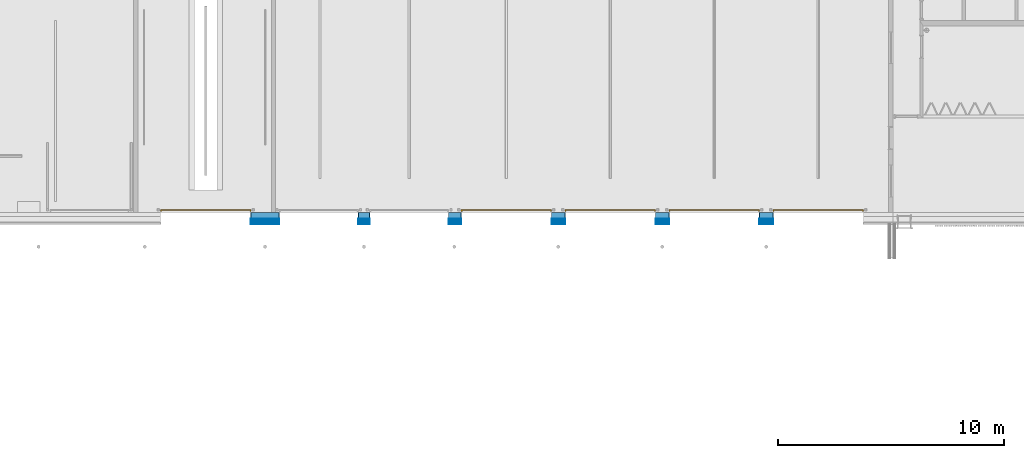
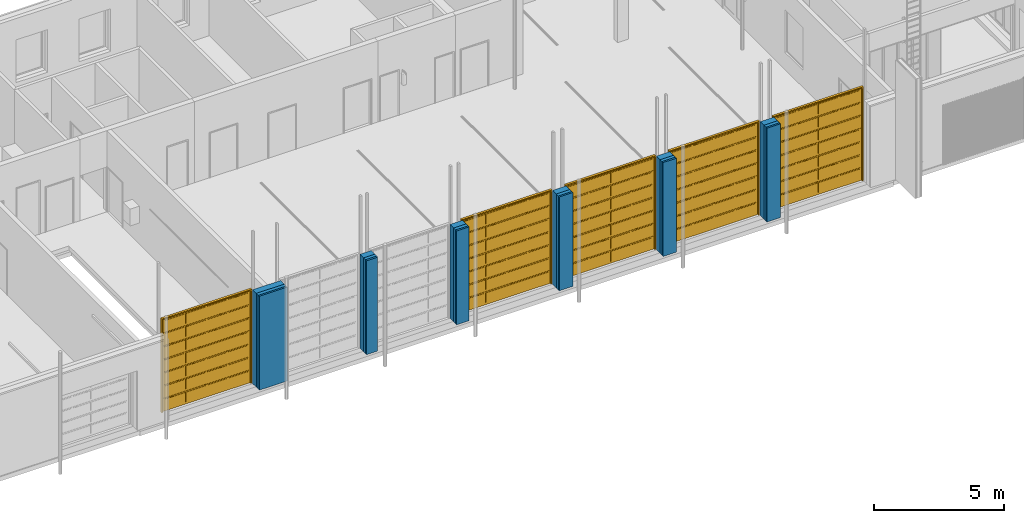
# One storey, part 26 of 112: 5 doors, 3 building element parts, 7 openings, 1 element without a shape of its own.
"""IFC2X3 building model written with IfcOpenShell, lengths in millimetres."""

from ifc_helpers import new_model, entity, si_unit, converted_unit, derived_unit, money_unit, direction, frame, origin_with_axes, origin_2d_with_axis, place, context, subcontext, project, spatial, polyline, rectangle, outline, extrude, faceted_brep, source, transform, mapped, material, type_object, element, fill, aggregate, save


model = new_model("IFC2X3")

# Units and contexts
model_context = context("Model", 3, precision=0.01, world=origin_with_axes(), true_north=direction((0.0, 1.0)))
body_context = subcontext(model_context, "Body", "Model", "MODEL_VIEW")
ifc_project = project(units=[si_unit("LENGTHUNIT", "METRE", prefix="MILLI"), si_unit("AREAUNIT", "SQUARE_METRE"), si_unit("VOLUMEUNIT", "CUBIC_METRE"), converted_unit("PLANEANGLEUNIT", "DEGREE", entity("IfcPlaneAngleMeasure", 0.0174532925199), si_unit("PLANEANGLEUNIT", "RADIAN"), dimensions=[0, 0, 0, 0, 0, 0, 0]), si_unit("SOLIDANGLEUNIT", "STERADIAN"), money_unit("EUR"), converted_unit("TIMEUNIT", "Year", entity("IfcTimeMeasure", 31556926.0), si_unit("TIMEUNIT", "SECOND"), dimensions=[0, 0, 1, 0, 0, 0, 0]), si_unit("MASSUNIT", "GRAM", prefix="KILO"), si_unit("THERMODYNAMICTEMPERATUREUNIT", "DEGREE_CELSIUS"), si_unit("LUMINOUSINTENSITYUNIT", "LUMEN"), si_unit("ENERGYUNIT", "JOULE", prefix="MEGA"), derived_unit("THERMALCONDUCTANCEUNIT", [(si_unit("POWERUNIT", "WATT"), 1), (si_unit("LENGTHUNIT", "METRE"), -1), (si_unit("THERMODYNAMICTEMPERATUREUNIT", "KELVIN"), -1)]), derived_unit("SPECIFICHEATCAPACITYUNIT", [(si_unit("ENERGYUNIT", "JOULE"), 1), (si_unit("MASSUNIT", "GRAM", prefix="KILO"), -1), (si_unit("THERMODYNAMICTEMPERATUREUNIT", "KELVIN"), -1)]), derived_unit("MASSDENSITYUNIT", [(si_unit("MASSUNIT", "GRAM", prefix="KILO"), 1), (si_unit("VOLUMEUNIT", "CUBIC_METRE"), -1)])], contexts=[model_context])

# Site, building, storey
site_placement = place(None, origin_with_axes())
site = spatial("IfcSite", under=ifc_project, at=site_placement, Name="Politse- ja Piirivalveameti ning Päästeameti ühishoone", CompositionType="ELEMENT")
building_placement = place(site_placement, origin_with_axes())
building = spatial("IfcBuilding", under=site, at=building_placement, Name="Politse- ja Piirivalveameti ning Päästeameti ühishoone", CompositionType="ELEMENT")
storey_placement = place(building_placement, origin_with_axes())
storey = spatial("IfcBuildingStorey", under=building, at=storey_placement, Name="Esimene korrus", CompositionType="ELEMENT", Elevation=0.0)

# Door
door_style = type_object("IfcDoorStyle", Name="Vertical Sliding Garage Door 23", ConstructionType="NOTDEFINED", OperationType="ROLLINGUP", ParameterTakesPrecedence=False, Sizeable=False)
shared_shape = source(origin_with_axes(), body_context, "Body", "Brep", [
    faceted_brep([(2000.0, 0.0, 0.0), (2000.0, -100.0, 0.0), (1950.0, -100.0, 0.0), (1950.0, 0.0, 0.0), (2000.0, 0.0, 4350.0), (2000.0, -100.0, 4350.0), (1950.0, -100.0, 4350.0), (1950.0, 0.0, 4350.0)], [[[0, 1, 2, 3]], [[4, 5, 1, 0]], [[1, 5, 6, 2]], [[3, 2, 6, 7]], [[0, 3, 7, 4]], [[7, 6, 5, 4]]]),
    faceted_brep([(-2000.0, 0.0, 0.0), (-2000.0, -100.0, 0.0), (-2000.0, -100.0, 4350.0), (-2000.0, 0.0, 4350.0), (-1950.0, 0.0, 0.0), (-1950.0, -100.0, 0.0), (-1950.0, -100.0, 4350.0), (-1950.0, 0.0, 4350.0)], [[[0, 1, 2, 3]], [[4, 5, 1, 0]], [[1, 5, 6, 2]], [[3, 2, 6, 7]], [[0, 3, 7, 4]], [[7, 6, 5, 4]]]),
    faceted_brep([(2000.0, 0.0, 4400.0), (2000.0, -100.0, 4400.0), (2000.0, -100.0, 4350.0), (2000.0, 0.0, 4350.0), (-2000.0, 0.0, 4400.0), (-2000.0, -100.0, 4400.0), (-2000.0, -100.0, 4350.0), (-1950.0, -100.0, 4350.0), (1950.0, -100.0, 4350.0), (1950.0, 0.0, 4350.0), (-1950.0, 0.0, 4350.0), (-2000.0, 0.0, 4350.0)], [[[0, 1, 2, 3]], [[4, 5, 1, 0]], [[1, 5, 6, 7, 8, 2]], [[3, 2, 8, 9]], [[0, 3, 9, 10, 11, 4]], [[11, 6, 5, 4]], [[10, 7, 6, 11]], [[9, 8, 7, 10]]]),
    faceted_brep([(-1950.0, -5.5, 0.0), (1950.0, -5.5, 0.0), (1950.0, -35.5, 0.0), (-1950.0, -35.5, 0.0), (-1950.0, -5.5, 4350.0), (1950.0, -5.5, 4350.0), (1950.0, -35.5, 4350.0), (-1950.0, -35.5, 4350.0)], [[[0, 1, 2, 3]], [[0, 4, 5, 1]], [[1, 5, 6, 2]], [[3, 2, 6, 7]], [[4, 0, 3, 7]], [[5, 4, 7, 6]]]),
    faceted_brep([(1900.0, -35.5, 50.0), (-1900.0, -35.5, 50.0), (-1900.0, -35.5, 614.285714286), (1900.0, -35.5, 614.285714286), (1900.0, -45.5, 50.0), (-1900.0, -45.5, 50.0), (-1900.0, -45.5, 614.285714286), (1900.0, -45.5, 614.285714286)], [[[0, 1, 2, 3]], [[1, 0, 4, 5]], [[2, 1, 5, 6]], [[3, 2, 6, 7]], [[0, 3, 7, 4]], [[5, 4, 7, 6]]]),
    faceted_brep([(-962.5, -45.5, 100.0), (-1850.0, -45.5, 100.0), (-1850.0, -45.5, 564.285714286), (-962.5, -45.5, 564.285714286), (-962.5, -55.5, 100.0), (-1850.0, -55.5, 100.0), (-1850.0, -55.5, 564.285714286), (-962.5, -55.5, 564.285714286)], [[[0, 1, 2, 3]], [[1, 0, 4, 5]], [[2, 1, 5, 6]], [[3, 2, 6, 7]], [[0, 3, 7, 4]], [[5, 4, 7, 6]]]),
    faceted_brep([(-25.0, -45.5, 100.0), (-912.5, -45.5, 100.0), (-912.5, -45.5, 564.285714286), (-25.0, -45.5, 564.285714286), (-25.0, -55.5, 100.0), (-912.5, -55.5, 100.0), (-912.5, -55.5, 564.285714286), (-25.0, -55.5, 564.285714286)], [[[0, 1, 2, 3]], [[1, 0, 4, 5]], [[2, 1, 5, 6]], [[3, 2, 6, 7]], [[0, 3, 7, 4]], [[5, 4, 7, 6]]]),
    faceted_brep([(912.5, -45.5, 100.0), (25.0, -45.5, 100.0), (25.0, -45.5, 564.285714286), (912.5, -45.5, 564.285714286), (912.5, -55.5, 100.0), (25.0, -55.5, 100.0), (25.0, -55.5, 564.285714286), (912.5, -55.5, 564.285714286)], [[[0, 1, 2, 3]], [[1, 0, 4, 5]], [[2, 1, 5, 6]], [[3, 2, 6, 7]], [[0, 3, 7, 4]], [[5, 4, 7, 6]]]),
    faceted_brep([(1850.0, -45.5, 100.0), (962.5, -45.5, 100.0), (962.5, -45.5, 564.285714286), (1850.0, -45.5, 564.285714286), (1850.0, -55.5, 100.0), (962.5, -55.5, 100.0), (962.5, -55.5, 564.285714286), (1850.0, -55.5, 564.285714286)], [[[0, 1, 2, 3]], [[1, 0, 4, 5]], [[2, 1, 5, 6]], [[3, 2, 6, 7]], [[0, 3, 7, 4]], [[5, 4, 7, 6]]]),
    faceted_brep([(1900.0, -35.5, 664.285714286), (-1900.0, -35.5, 664.285714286), (-1900.0, -35.5, 1228.57142857), (1900.0, -35.5, 1228.57142857), (1900.0, -45.5, 664.285714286), (-1900.0, -45.5, 664.285714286), (-1900.0, -45.5, 1228.57142857), (1900.0, -45.5, 1228.57142857)], [[[0, 1, 2, 3]], [[1, 0, 4, 5]], [[2, 1, 5, 6]], [[3, 2, 6, 7]], [[0, 3, 7, 4]], [[5, 4, 7, 6]]]),
    faceted_brep([(-962.5, -45.5, 714.285714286), (-1850.0, -45.5, 714.285714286), (-1850.0, -45.5, 1178.57142857), (-962.5, -45.5, 1178.57142857), (-962.5, -55.5, 714.285714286), (-1850.0, -55.5, 714.285714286), (-1850.0, -55.5, 1178.57142857), (-962.5, -55.5, 1178.57142857)], [[[0, 1, 2, 3]], [[1, 0, 4, 5]], [[2, 1, 5, 6]], [[3, 2, 6, 7]], [[0, 3, 7, 4]], [[5, 4, 7, 6]]]),
    faceted_brep([(-25.0, -45.5, 714.285714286), (-912.5, -45.5, 714.285714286), (-912.5, -45.5, 1178.57142857), (-25.0, -45.5, 1178.57142857), (-25.0, -55.5, 714.285714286), (-912.5, -55.5, 714.285714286), (-912.5, -55.5, 1178.57142857), (-25.0, -55.5, 1178.57142857)], [[[0, 1, 2, 3]], [[1, 0, 4, 5]], [[2, 1, 5, 6]], [[3, 2, 6, 7]], [[0, 3, 7, 4]], [[5, 4, 7, 6]]]),
    faceted_brep([(912.5, -45.5, 714.285714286), (25.0, -45.5, 714.285714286), (25.0, -45.5, 1178.57142857), (912.5, -45.5, 1178.57142857), (912.5, -55.5, 714.285714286), (25.0, -55.5, 714.285714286), (25.0, -55.5, 1178.57142857), (912.5, -55.5, 1178.57142857)], [[[0, 1, 2, 3]], [[1, 0, 4, 5]], [[2, 1, 5, 6]], [[3, 2, 6, 7]], [[0, 3, 7, 4]], [[5, 4, 7, 6]]]),
    faceted_brep([(1850.0, -45.5, 714.285714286), (962.5, -45.5, 714.285714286), (962.5, -45.5, 1178.57142857), (1850.0, -45.5, 1178.57142857), (1850.0, -55.5, 714.285714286), (962.5, -55.5, 714.285714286), (962.5, -55.5, 1178.57142857), (1850.0, -55.5, 1178.57142857)], [[[0, 1, 2, 3]], [[1, 0, 4, 5]], [[2, 1, 5, 6]], [[3, 2, 6, 7]], [[0, 3, 7, 4]], [[5, 4, 7, 6]]]),
    faceted_brep([(1900.0, -35.5, 1278.57142857), (-1900.0, -35.5, 1278.57142857), (-1900.0, -35.5, 1842.85714286), (1900.0, -35.5, 1842.85714286), (1900.0, -45.5, 1278.57142857), (-1900.0, -45.5, 1278.57142857), (-1900.0, -45.5, 1842.85714286), (1900.0, -45.5, 1842.85714286)], [[[0, 1, 2, 3]], [[1, 0, 4, 5]], [[2, 1, 5, 6]], [[3, 2, 6, 7]], [[0, 3, 7, 4]], [[5, 4, 7, 6]]]),
    faceted_brep([(-962.5, -45.5, 1328.57142857), (-1850.0, -45.5, 1328.57142857), (-1850.0, -45.5, 1792.85714286), (-962.5, -45.5, 1792.85714286), (-962.5, -55.5, 1328.57142857), (-1850.0, -55.5, 1328.57142857), (-1850.0, -55.5, 1792.85714286), (-962.5, -55.5, 1792.85714286)], [[[0, 1, 2, 3]], [[1, 0, 4, 5]], [[2, 1, 5, 6]], [[3, 2, 6, 7]], [[0, 3, 7, 4]], [[5, 4, 7, 6]]]),
    faceted_brep([(-25.0, -45.5, 1328.57142857), (-912.5, -45.5, 1328.57142857), (-912.5, -45.5, 1792.85714286), (-25.0, -45.5, 1792.85714286), (-25.0, -55.5, 1328.57142857), (-912.5, -55.5, 1328.57142857), (-912.5, -55.5, 1792.85714286), (-25.0, -55.5, 1792.85714286)], [[[0, 1, 2, 3]], [[1, 0, 4, 5]], [[2, 1, 5, 6]], [[3, 2, 6, 7]], [[0, 3, 7, 4]], [[5, 4, 7, 6]]]),
    faceted_brep([(912.5, -45.5, 1328.57142857), (25.0, -45.5, 1328.57142857), (25.0, -45.5, 1792.85714286), (912.5, -45.5, 1792.85714286), (912.5, -55.5, 1328.57142857), (25.0, -55.5, 1328.57142857), (25.0, -55.5, 1792.85714286), (912.5, -55.5, 1792.85714286)], [[[0, 1, 2, 3]], [[1, 0, 4, 5]], [[2, 1, 5, 6]], [[3, 2, 6, 7]], [[0, 3, 7, 4]], [[5, 4, 7, 6]]]),
    faceted_brep([(1850.0, -45.5, 1328.57142857), (962.5, -45.5, 1328.57142857), (962.5, -45.5, 1792.85714286), (1850.0, -45.5, 1792.85714286), (1850.0, -55.5, 1328.57142857), (962.5, -55.5, 1328.57142857), (962.5, -55.5, 1792.85714286), (1850.0, -55.5, 1792.85714286)], [[[0, 1, 2, 3]], [[1, 0, 4, 5]], [[2, 1, 5, 6]], [[3, 2, 6, 7]], [[0, 3, 7, 4]], [[5, 4, 7, 6]]]),
    faceted_brep([(1900.0, -35.5, 1892.85714286), (-1900.0, -35.5, 1892.85714286), (-1900.0, -35.5, 2457.14285714), (1900.0, -35.5, 2457.14285714), (1900.0, -45.5, 1892.85714286), (-1900.0, -45.5, 1892.85714286), (-1900.0, -45.5, 2457.14285714), (1900.0, -45.5, 2457.14285714)], [[[0, 1, 2, 3]], [[1, 0, 4, 5]], [[2, 1, 5, 6]], [[3, 2, 6, 7]], [[0, 3, 7, 4]], [[5, 4, 7, 6]]]),
    faceted_brep([(-962.5, -45.5, 1942.85714286), (-1850.0, -45.5, 1942.85714286), (-1850.0, -45.5, 2407.14285714), (-962.5, -45.5, 2407.14285714), (-962.5, -55.5, 1942.85714286), (-1850.0, -55.5, 1942.85714286), (-1850.0, -55.5, 2407.14285714), (-962.5, -55.5, 2407.14285714)], [[[0, 1, 2, 3]], [[1, 0, 4, 5]], [[2, 1, 5, 6]], [[3, 2, 6, 7]], [[0, 3, 7, 4]], [[5, 4, 7, 6]]]),
    faceted_brep([(-25.0, -45.5, 1942.85714286), (-912.5, -45.5, 1942.85714286), (-912.5, -45.5, 2407.14285714), (-25.0, -45.5, 2407.14285714), (-25.0, -55.5, 1942.85714286), (-912.5, -55.5, 1942.85714286), (-912.5, -55.5, 2407.14285714), (-25.0, -55.5, 2407.14285714)], [[[0, 1, 2, 3]], [[1, 0, 4, 5]], [[2, 1, 5, 6]], [[3, 2, 6, 7]], [[0, 3, 7, 4]], [[5, 4, 7, 6]]]),
    faceted_brep([(912.5, -45.5, 1942.85714286), (25.0, -45.5, 1942.85714286), (25.0, -45.5, 2407.14285714), (912.5, -45.5, 2407.14285714), (912.5, -55.5, 1942.85714286), (25.0, -55.5, 1942.85714286), (25.0, -55.5, 2407.14285714), (912.5, -55.5, 2407.14285714)], [[[0, 1, 2, 3]], [[1, 0, 4, 5]], [[2, 1, 5, 6]], [[3, 2, 6, 7]], [[0, 3, 7, 4]], [[5, 4, 7, 6]]]),
    faceted_brep([(1850.0, -45.5, 1942.85714286), (962.5, -45.5, 1942.85714286), (962.5, -45.5, 2407.14285714), (1850.0, -45.5, 2407.14285714), (1850.0, -55.5, 1942.85714286), (962.5, -55.5, 1942.85714286), (962.5, -55.5, 2407.14285714), (1850.0, -55.5, 2407.14285714)], [[[0, 1, 2, 3]], [[1, 0, 4, 5]], [[2, 1, 5, 6]], [[3, 2, 6, 7]], [[0, 3, 7, 4]], [[5, 4, 7, 6]]]),
    faceted_brep([(1900.0, -35.5, 2507.14285714), (-1900.0, -35.5, 2507.14285714), (-1900.0, -35.5, 3071.42857143), (1900.0, -35.5, 3071.42857143), (1900.0, -45.5, 2507.14285714), (-1900.0, -45.5, 2507.14285714), (-1900.0, -45.5, 3071.42857143), (1900.0, -45.5, 3071.42857143)], [[[0, 1, 2, 3]], [[1, 0, 4, 5]], [[2, 1, 5, 6]], [[3, 2, 6, 7]], [[0, 3, 7, 4]], [[5, 4, 7, 6]]]),
    faceted_brep([(-962.5, -45.5, 2557.14285714), (-1850.0, -45.5, 2557.14285714), (-1850.0, -45.5, 3021.42857143), (-962.5, -45.5, 3021.42857143), (-962.5, -55.5, 2557.14285714), (-1850.0, -55.5, 2557.14285714), (-1850.0, -55.5, 3021.42857143), (-962.5, -55.5, 3021.42857143)], [[[0, 1, 2, 3]], [[1, 0, 4, 5]], [[2, 1, 5, 6]], [[3, 2, 6, 7]], [[0, 3, 7, 4]], [[5, 4, 7, 6]]]),
    faceted_brep([(-25.0, -45.5, 2557.14285714), (-912.5, -45.5, 2557.14285714), (-912.5, -45.5, 3021.42857143), (-25.0, -45.5, 3021.42857143), (-25.0, -55.5, 2557.14285714), (-912.5, -55.5, 2557.14285714), (-912.5, -55.5, 3021.42857143), (-25.0, -55.5, 3021.42857143)], [[[0, 1, 2, 3]], [[1, 0, 4, 5]], [[2, 1, 5, 6]], [[3, 2, 6, 7]], [[0, 3, 7, 4]], [[5, 4, 7, 6]]]),
    faceted_brep([(912.5, -45.5, 2557.14285714), (25.0, -45.5, 2557.14285714), (25.0, -45.5, 3021.42857143), (912.5, -45.5, 3021.42857143), (912.5, -55.5, 2557.14285714), (25.0, -55.5, 2557.14285714), (25.0, -55.5, 3021.42857143), (912.5, -55.5, 3021.42857143)], [[[0, 1, 2, 3]], [[1, 0, 4, 5]], [[2, 1, 5, 6]], [[3, 2, 6, 7]], [[0, 3, 7, 4]], [[5, 4, 7, 6]]]),
    faceted_brep([(1850.0, -45.5, 2557.14285714), (962.5, -45.5, 2557.14285714), (962.5, -45.5, 3021.42857143), (1850.0, -45.5, 3021.42857143), (1850.0, -55.5, 2557.14285714), (962.5, -55.5, 2557.14285714), (962.5, -55.5, 3021.42857143), (1850.0, -55.5, 3021.42857143)], [[[0, 1, 2, 3]], [[1, 0, 4, 5]], [[2, 1, 5, 6]], [[3, 2, 6, 7]], [[0, 3, 7, 4]], [[5, 4, 7, 6]]]),
    faceted_brep([(1900.0, -35.5, 3121.42857143), (-1900.0, -35.5, 3121.42857143), (-1900.0, -35.5, 3685.71428571), (1900.0, -35.5, 3685.71428571), (1900.0, -45.5, 3121.42857143), (-1900.0, -45.5, 3121.42857143), (-1900.0, -45.5, 3685.71428571), (1900.0, -45.5, 3685.71428571)], [[[0, 1, 2, 3]], [[1, 0, 4, 5]], [[2, 1, 5, 6]], [[3, 2, 6, 7]], [[0, 3, 7, 4]], [[5, 4, 7, 6]]]),
    faceted_brep([(-962.5, -45.5, 3171.42857143), (-1850.0, -45.5, 3171.42857143), (-1850.0, -45.5, 3635.71428571), (-962.5, -45.5, 3635.71428571), (-962.5, -55.5, 3171.42857143), (-1850.0, -55.5, 3171.42857143), (-1850.0, -55.5, 3635.71428571), (-962.5, -55.5, 3635.71428571)], [[[0, 1, 2, 3]], [[1, 0, 4, 5]], [[2, 1, 5, 6]], [[3, 2, 6, 7]], [[0, 3, 7, 4]], [[5, 4, 7, 6]]]),
    faceted_brep([(-25.0, -45.5, 3171.42857143), (-912.5, -45.5, 3171.42857143), (-912.5, -45.5, 3635.71428571), (-25.0, -45.5, 3635.71428571), (-25.0, -55.5, 3171.42857143), (-912.5, -55.5, 3171.42857143), (-912.5, -55.5, 3635.71428571), (-25.0, -55.5, 3635.71428571)], [[[0, 1, 2, 3]], [[1, 0, 4, 5]], [[2, 1, 5, 6]], [[3, 2, 6, 7]], [[0, 3, 7, 4]], [[5, 4, 7, 6]]]),
    faceted_brep([(912.5, -45.5, 3171.42857143), (25.0, -45.5, 3171.42857143), (25.0, -45.5, 3635.71428571), (912.5, -45.5, 3635.71428571), (912.5, -55.5, 3171.42857143), (25.0, -55.5, 3171.42857143), (25.0, -55.5, 3635.71428571), (912.5, -55.5, 3635.71428571)], [[[0, 1, 2, 3]], [[1, 0, 4, 5]], [[2, 1, 5, 6]], [[3, 2, 6, 7]], [[0, 3, 7, 4]], [[5, 4, 7, 6]]]),
    faceted_brep([(1850.0, -45.5, 3171.42857143), (962.5, -45.5, 3171.42857143), (962.5, -45.5, 3635.71428571), (1850.0, -45.5, 3635.71428571), (1850.0, -55.5, 3171.42857143), (962.5, -55.5, 3171.42857143), (962.5, -55.5, 3635.71428571), (1850.0, -55.5, 3635.71428571)], [[[0, 1, 2, 3]], [[1, 0, 4, 5]], [[2, 1, 5, 6]], [[3, 2, 6, 7]], [[0, 3, 7, 4]], [[5, 4, 7, 6]]]),
    faceted_brep([(1900.0, -35.5, 3735.71428571), (-1900.0, -35.5, 3735.71428571), (-1900.0, -35.5, 4300.0), (1900.0, -35.5, 4300.0), (1900.0, -45.5, 3735.71428571), (-1900.0, -45.5, 3735.71428571), (-1900.0, -45.5, 4300.0), (1900.0, -45.5, 4300.0)], [[[0, 1, 2, 3]], [[1, 0, 4, 5]], [[2, 1, 5, 6]], [[3, 2, 6, 7]], [[0, 3, 7, 4]], [[5, 4, 7, 6]]]),
    faceted_brep([(-962.5, -45.5, 3785.71428571), (-1850.0, -45.5, 3785.71428571), (-1850.0, -45.5, 4250.0), (-962.5, -45.5, 4250.0), (-962.5, -55.5, 3785.71428571), (-1850.0, -55.5, 3785.71428571), (-1850.0, -55.5, 4250.0), (-962.5, -55.5, 4250.0)], [[[0, 1, 2, 3]], [[1, 0, 4, 5]], [[2, 1, 5, 6]], [[3, 2, 6, 7]], [[0, 3, 7, 4]], [[5, 4, 7, 6]]]),
    faceted_brep([(-25.0, -45.5, 3785.71428571), (-912.5, -45.5, 3785.71428571), (-912.5, -45.5, 4250.0), (-25.0, -45.5, 4250.0), (-25.0, -55.5, 3785.71428571), (-912.5, -55.5, 3785.71428571), (-912.5, -55.5, 4250.0), (-25.0, -55.5, 4250.0)], [[[0, 1, 2, 3]], [[1, 0, 4, 5]], [[2, 1, 5, 6]], [[3, 2, 6, 7]], [[0, 3, 7, 4]], [[5, 4, 7, 6]]]),
    faceted_brep([(912.5, -45.5, 3785.71428571), (25.0, -45.5, 3785.71428571), (25.0, -45.5, 4250.0), (912.5, -45.5, 4250.0), (912.5, -55.5, 3785.71428571), (25.0, -55.5, 3785.71428571), (25.0, -55.5, 4250.0), (912.5, -55.5, 4250.0)], [[[0, 1, 2, 3]], [[1, 0, 4, 5]], [[2, 1, 5, 6]], [[3, 2, 6, 7]], [[0, 3, 7, 4]], [[5, 4, 7, 6]]]),
    faceted_brep([(1850.0, -45.5, 3785.71428571), (962.5, -45.5, 3785.71428571), (962.5, -45.5, 4250.0), (1850.0, -45.5, 4250.0), (1850.0, -55.5, 3785.71428571), (962.5, -55.5, 3785.71428571), (962.5, -55.5, 4250.0), (1850.0, -55.5, 4250.0)], [[[0, 1, 2, 3]], [[1, 0, 4, 5]], [[2, 1, 5, 6]], [[3, 2, 6, 7]], [[0, 3, 7, 4]], [[5, 4, 7, 6]]]),
])
wall_placement = place(storey_placement, frame((27759.7054661, 0.0, 0.0), z_axis=(0.0, 0.0, 1.0), x_axis=(1.0, 0.0, 0.0)))
opening_1_placement = place(wall_placement, frame((15300.8218484, 0.0, 0.0), z_axis=(0.0, 0.0, 1.0), x_axis=(1.0, 0.0, 0.0)))
door_1_placement = place(opening_1_placement, frame((-2000.0, 0.0, 0.0), z_axis=(0.0, 0.0, 1.0), x_axis=(1.0, 0.0, 0.0)))
door_1 = element("IfcDoor", 1, at=door_1_placement, inside=storey, type_object=door_style, Name="TV-02", ObjectType="DOOR", OverallHeight=4400.0, OverallWidth=4000.0, context=body_context, shape_type="MappedRepresentation", body=[
    mapped(shared_shape, transform((2000.0, 140.0, 0.0))),
])

opening_2_placement = place(wall_placement, frame((19900.8288762, 0.0, 0.0), z_axis=(0.0, 0.0, 1.0), x_axis=(1.0, 0.0, 0.0)))
door_2_placement = place(opening_2_placement, frame((-2000.0, 0.0, 0.0), z_axis=(0.0, 0.0, 1.0), x_axis=(1.0, 0.0, 0.0)))
door_2 = element("IfcDoor", 2, at=door_2_placement, inside=storey, type_object=door_style, Name="TV-02", ObjectType="DOOR", OverallHeight=4400.0, OverallWidth=4000.0, context=body_context, shape_type="MappedRepresentation", body=[
    mapped(shared_shape, transform((2000.0, 140.0, 0.0))),
])

opening_3_placement = place(wall_placement, frame((24500.835904, 0.0, 0.0), z_axis=(0.0, 0.0, 1.0), x_axis=(1.0, 0.0, 0.0)))
door_3_placement = place(opening_3_placement, frame((-2000.0, 0.0, 0.0), z_axis=(0.0, 0.0, 1.0), x_axis=(1.0, 0.0, 0.0)))
door_3 = element("IfcDoor", 3, at=door_3_placement, inside=storey, type_object=door_style, Name="TV-02", ObjectType="DOOR", OverallHeight=4400.0, OverallWidth=4000.0, context=body_context, shape_type="MappedRepresentation", body=[
    mapped(shared_shape, transform((2000.0, 140.0, 0.0))),
])

opening_4_placement = place(wall_placement, frame((29100.8429318, 0.0, 0.0), z_axis=(0.0, 0.0, 1.0), x_axis=(1.0, 0.0, 0.0)))
door_4_placement = place(opening_4_placement, frame((-2000.0, 0.0, 0.0), z_axis=(0.0, 0.0, 1.0), x_axis=(1.0, 0.0, 0.0)))
door_4 = element("IfcDoor", 4, at=door_4_placement, inside=storey, type_object=door_style, Name="TV-02", ObjectType="DOOR", OverallHeight=4400.0, OverallWidth=4000.0, context=body_context, shape_type="MappedRepresentation", body=[
    mapped(shared_shape, transform((2000.0, 140.0, 0.0))),
])

opening_5_placement = place(wall_placement, frame((2000.0, 0.0, 0.0), z_axis=(0.0, 0.0, 1.0), x_axis=(1.0, 0.0, 0.0)))
door_5_placement = place(opening_5_placement, frame((-2000.0, 0.0, 0.0), z_axis=(0.0, 0.0, 1.0), x_axis=(1.0, 0.0, 0.0)))
door_5 = element("IfcDoor", 5, at=door_5_placement, inside=storey, type_object=door_style, Name="TV-05", ObjectType="DOOR", OverallHeight=4400.0, OverallWidth=4000.0, context=body_context, shape_type="MappedRepresentation", body=[
    mapped(shared_shape, transform((2000.0, 140.0, 0.0))),
])

# Wall, opening
wall_type = type_object("IfcWallType", Name="VS-14_välissein gar uste vahel 510", PredefinedType="NOTDEFINED")
wall = element("IfcWall", 6, at=wall_placement, inside=storey, type_object=wall_type, Name="VS-14")
opening_1 = element("IfcOpeningElement", 7, at=opening_1_placement, cuts=wall, Name="TV-02", context=body_context, shape_type="SweptSolid", body=[
    extrude(rectangle(XDim=4000.0, YDim=4400.0, at=origin_2d_with_axis()), frame((0.0, 40.0, 2200.0), z_axis=(0.0, -1.0, 0.0), x_axis=(-1.0, 0.0, 0.0)), (0.0, 0.0, 1.0), 1060.0),
    extrude(outline(polyline([(-2000.0, 8800.0), (-2000.0, 4400.0), (2000.0, 4400.0), (2000.0, 8800.0), (-2000.0, 8800.0)])), frame((0.0, 135.0, 0.0), z_axis=(0.0, 1.0, 0.0), x_axis=(-1.0, 0.0, 0.0)), (0.0, 0.0, -1.0), 45.0),
    extrude(rectangle(XDim=4000.0, YDim=4400.0, at=origin_2d_with_axis()), frame((0.0, 40.0, 2200.0), z_axis=(0.0, 1.0, 0.0), x_axis=(-1.0, 0.0, 0.0)), (0.0, 0.0, 1.0), 550.0),
])

fill(opening_1, door_1)

# Opening
opening_2 = element("IfcOpeningElement", 8, at=opening_2_placement, cuts=wall, Name="TV-02", context=body_context, shape_type="SweptSolid", body=[
    extrude(rectangle(XDim=4000.0, YDim=4400.0, at=origin_2d_with_axis()), frame((0.0, 40.0, 2200.0), z_axis=(0.0, -1.0, 0.0), x_axis=(-1.0, 0.0, 0.0)), (0.0, 0.0, 1.0), 1060.0),
    extrude(outline(polyline([(-2000.0, 8800.0), (-2000.0, 4400.0), (2000.0, 4400.0), (2000.0, 8800.0), (-2000.0, 8800.0)])), frame((0.0, 135.0, 0.0), z_axis=(0.0, 1.0, 0.0), x_axis=(-1.0, 0.0, 0.0)), (0.0, 0.0, -1.0), 45.0),
    extrude(rectangle(XDim=4000.0, YDim=4400.0, at=origin_2d_with_axis()), frame((0.0, 40.0, 2200.0), z_axis=(0.0, 1.0, 0.0), x_axis=(-1.0, 0.0, 0.0)), (0.0, 0.0, 1.0), 550.0),
])

fill(opening_2, door_2)

opening_3 = element("IfcOpeningElement", 9, at=opening_3_placement, cuts=wall, Name="TV-02", context=body_context, shape_type="SweptSolid", body=[
    extrude(rectangle(XDim=4000.0, YDim=4400.0, at=origin_2d_with_axis()), frame((0.0, 40.0, 2200.0), z_axis=(0.0, -1.0, 0.0), x_axis=(-1.0, 0.0, 0.0)), (0.0, 0.0, 1.0), 1060.0),
    extrude(outline(polyline([(-2000.0, 8800.0), (-2000.0, 4400.0), (2000.0, 4400.0), (2000.0, 8800.0), (-2000.0, 8800.0)])), frame((0.0, 135.0, 0.0), z_axis=(0.0, 1.0, 0.0), x_axis=(-1.0, 0.0, 0.0)), (0.0, 0.0, -1.0), 45.0),
    extrude(rectangle(XDim=4000.0, YDim=4400.0, at=origin_2d_with_axis()), frame((0.0, 40.0, 2200.0), z_axis=(0.0, 1.0, 0.0), x_axis=(-1.0, 0.0, 0.0)), (0.0, 0.0, 1.0), 550.0),
])

fill(opening_3, door_3)

opening_4 = element("IfcOpeningElement", 10, at=opening_4_placement, cuts=wall, Name="TV-02", context=body_context, shape_type="SweptSolid", body=[
    extrude(rectangle(XDim=4000.0, YDim=4400.0, at=origin_2d_with_axis()), frame((0.0, 40.0, 2200.0), z_axis=(0.0, -1.0, 0.0), x_axis=(-1.0, 0.0, 0.0)), (0.0, 0.0, 1.0), 1060.0),
    extrude(outline(polyline([(-2000.0, 8800.0), (-2000.0, 4400.0), (2000.0, 4400.0), (2000.0, 8800.0), (-2000.0, 8800.0)])), frame((0.0, 135.0, 0.0), z_axis=(0.0, 1.0, 0.0), x_axis=(-1.0, 0.0, 0.0)), (0.0, 0.0, -1.0), 45.0),
    extrude(rectangle(XDim=4000.0, YDim=4400.0, at=origin_2d_with_axis()), frame((0.0, 40.0, 2200.0), z_axis=(0.0, 1.0, 0.0), x_axis=(-1.0, 0.0, 0.0)), (0.0, 0.0, 1.0), 550.0),
])

fill(opening_4, door_4)

opening_5 = element("IfcOpeningElement", 11, at=opening_5_placement, cuts=wall, Name="TV-05", context=body_context, shape_type="SweptSolid", body=[
    extrude(rectangle(XDim=4000.0, YDim=4400.0, at=origin_2d_with_axis()), frame((0.0, 40.0, 2200.0), z_axis=(0.0, -1.0, 0.0), x_axis=(-1.0, 0.0, 0.0)), (0.0, 0.0, 1.0), 1060.0),
    extrude(outline(polyline([(-2000.0, 8800.0), (-2000.0, 4400.0), (2000.0, 4400.0), (2000.0, 8800.0), (-2000.0, 8800.0)])), frame((0.0, 135.0, 0.0), z_axis=(0.0, 1.0, 0.0), x_axis=(-1.0, 0.0, 0.0)), (0.0, 0.0, -1.0), 45.0),
    extrude(rectangle(XDim=4000.0, YDim=4400.0, at=origin_2d_with_axis()), frame((0.0, 40.0, 2200.0), z_axis=(0.0, 1.0, 0.0), x_axis=(-1.0, 0.0, 0.0)), (0.0, 0.0, 1.0), 550.0),
])

fill(opening_5, door_5)

opening_6_placement = place(wall_placement, frame((7000.00611111, 0.0, 0.0), z_axis=(0.0, 0.0, 1.0), x_axis=(1.0, 0.0, 0.0)))
element("IfcOpeningElement", 12, at=opening_6_placement, cuts=wall, Name="TV-03", context=body_context, shape_type="SweptSolid", body=[
    extrude(rectangle(XDim=3500.0, YDim=4400.0, at=origin_2d_with_axis()), frame((0.0, 40.0, 2200.0), z_axis=(0.0, -1.0, 0.0), x_axis=(-1.0, 0.0, 0.0)), (0.0, 0.0, 1.0), 1060.0),
    extrude(outline(polyline([(-1750.0, 8800.0), (-1750.0, 4400.0), (1750.0, 4400.0), (1750.0, 8800.0), (-1750.0, 8800.0)])), frame((0.0, 135.0, 0.0), z_axis=(0.0, 1.0, 0.0), x_axis=(-1.0, 0.0, 0.0)), (0.0, 0.0, -1.0), 45.0),
    extrude(rectangle(XDim=3500.0, YDim=4400.0, at=origin_2d_with_axis()), frame((0.0, 40.0, 2200.0), z_axis=(0.0, 1.0, 0.0), x_axis=(-1.0, 0.0, 0.0)), (0.0, 0.0, 1.0), 550.0),
])

opening_7_placement = place(wall_placement, frame((11000.4122228, 0.0, 0.0), z_axis=(0.0, 0.0, 1.0), x_axis=(1.0, 0.0, 0.0)))
element("IfcOpeningElement", 13, at=opening_7_placement, cuts=wall, Name="TV-03", context=body_context, shape_type="SweptSolid", body=[
    extrude(rectangle(XDim=3500.0, YDim=4400.0, at=origin_2d_with_axis()), frame((0.0, 40.0, 2200.0), z_axis=(0.0, -1.0, 0.0), x_axis=(-1.0, 0.0, 0.0)), (0.0, 0.0, 1.0), 1060.0),
    extrude(outline(polyline([(-1750.0, 8800.0), (-1750.0, 4400.0), (1750.0, 4400.0), (1750.0, 8800.0), (-1750.0, 8800.0)])), frame((0.0, 135.0, 0.0), z_axis=(0.0, 1.0, 0.0), x_axis=(-1.0, 0.0, 0.0)), (0.0, 0.0, -1.0), 45.0),
    extrude(rectangle(XDim=3500.0, YDim=4400.0, at=origin_2d_with_axis()), frame((0.0, 40.0, 2200.0), z_axis=(0.0, 1.0, 0.0), x_axis=(-1.0, 0.0, 0.0)), (0.0, 0.0, 1.0), 550.0),
])

# Building element part
ifc_material_1 = material(Name="KON-04_Betoon - Konstuktsioon")
building_element_part_1_placement = place(wall_placement, origin_with_axes())
building_element_part_1 = element("IfcBuildingElementPart", 14, at=building_element_part_1_placement, material=ifc_material_1, Name="KON-04_Betoon - Konstuktsioon", context=body_context, shape_type="SweptSolid", body=[
    extrude(outline(polyline([(0.0, -280.0), (31100.8429318, -280.0), (31100.8429318, 0.0), (0.0, 0.0), (0.0, -280.0)])), origin_with_axes(), (0.0, 0.0, 1.0), 4400.0),
])

ifc_material_2 = material(Name="SOJ-06_Soojustus - Plastik Kõva")
building_element_part_2_placement = place(wall_placement, origin_with_axes())
building_element_part_2 = element("IfcBuildingElementPart", 15, at=building_element_part_2_placement, material=ifc_material_2, Name="SOJ-06_Soojustus - Plastik Kõva", context=body_context, shape_type="SweptSolid", body=[
    extrude(outline(polyline([(0.0, -430.0), (31100.8429318, -430.0), (31100.8429318, -280.0), (0.0, -280.0), (0.0, -430.0)])), origin_with_axes(), (0.0, 0.0, 1.0), 4400.0),
])

building_element_part_3_placement = place(wall_placement, origin_with_axes())
building_element_part_3 = element("IfcBuildingElementPart", 16, at=building_element_part_3_placement, material=ifc_material_1, Name="KON-04_Betoon - Konstuktsioon", context=body_context, shape_type="SweptSolid", body=[
    extrude(outline(polyline([(0.0, -510.0), (31100.8429318, -510.0), (31100.8429318, -430.0), (0.0, -430.0), (0.0, -510.0)])), origin_with_axes(), (0.0, 0.0, 1.0), 4400.0),
])

aggregate(wall, [building_element_part_1, building_element_part_2, building_element_part_3])

save(model, "model.ifc")
